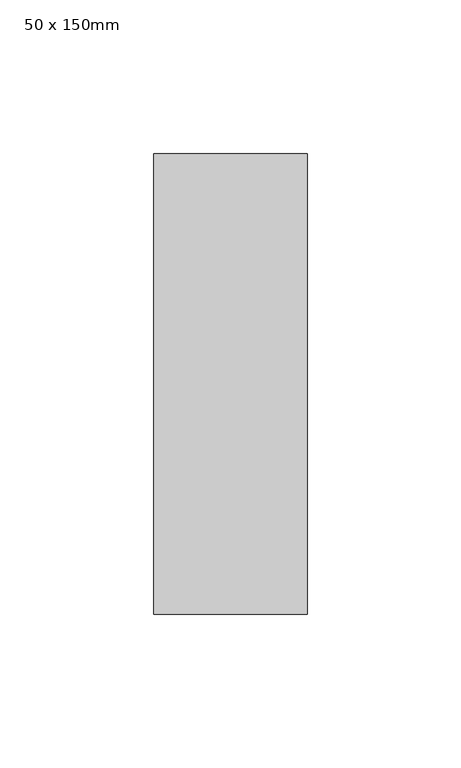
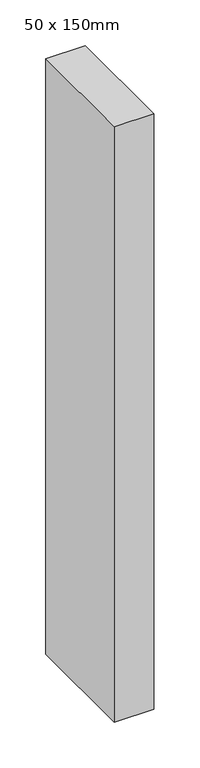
"""IFC4 building model written with IfcOpenShell, lengths in millimetres: member geometry, Прямоугольный импост : 50 x 150mm."""

from ifc_helpers import new_model, si_unit, frame, origin, place, context, project, spatial, polyline, outline, extrude, source, transform, mapped, element, save


def member_50_x_150mm_b5b771f0(model_context):
    return source(origin(), model_context, "Body", "SweptSolid", [
        extrude(outline(polyline([(0.0, 75.0), (0.0, -75.0), (-50.0, -75.0), (-50.0, 75.0), (0.0, 75.0)])), frame((0.0, 0.0, -795.0), z_axis=(0.0, 0.0, 1.0), x_axis=(1.0, 0.0, 0.0)), (0.0, 0.0, 1.0), 795.0),
    ])


if __name__ == "__main__":
    model = new_model("IFC4")
    model_context = context("Model", 3, world=origin())
    ifc_project = project(units=[si_unit("LENGTHUNIT", "METRE", prefix="MILLI")], contexts=[model_context])
    site = spatial("IfcSite", under=ifc_project)
    building = spatial("IfcBuilding", under=site)
    placement = place(None, origin())
    member_50_x_150mm_shape = member_50_x_150mm_b5b771f0(model_context)
    element("IfcMember", 1, ObjectType="Прямоугольный импост : 50 x 150mm", at=placement, inside=building, context=model_context, shape_type="MappedRepresentation", body=[
        mapped(member_50_x_150mm_shape, transform((0.0, 0.0, 0.0), x_axis=(1.0, 0.0, 0.0), y_axis=(0.0, 1.0, 0.0), z_axis=(0.0, 0.0, 1.0))),
    ])
    save(model, "model.ifc")
